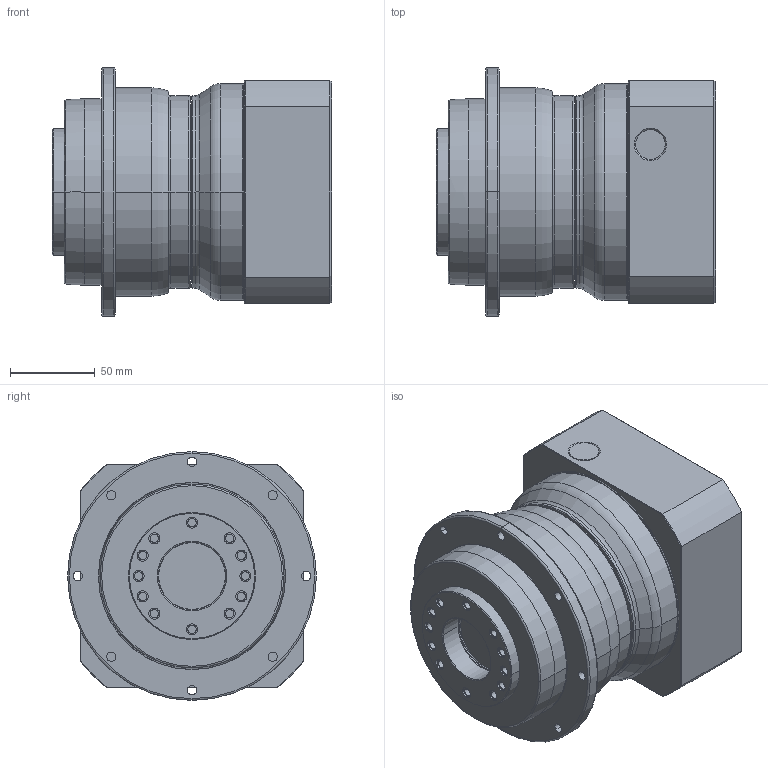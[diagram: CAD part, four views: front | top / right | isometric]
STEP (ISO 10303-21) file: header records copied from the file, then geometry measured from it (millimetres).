
FILE_DESCRIPTION((''),'2;1');
FILE_NAME('PD110_1ST_35-P0411800101_ASM','2016-06-02T',('d01943'),(''),'PRO/ENGINEER BY PARAMETRIC TECHNOLOGY CORPORATION, 2008410','PRO/ENGINEER BY PARAMETRIC TECHNOLOGY CORPORATION, 2008410','');
FILE_SCHEMA(('CONFIG_CONTROL_DESIGN'));
Length unit declared in the file: millimetre
Products named in the file (8): P1355400001; P0367400001; P0274400001; P1324400401; P0411800101; P0503800010; P0941404001; PD110_1ST_35-P0411800101_ASM
Assembly tree (7 placements, depth 2):
  PD110_1ST_35-P0411800101_ASM
    P1355400001
    P0367400001
    P0274400001
    P1324400401
    P0411800101
    P0503800010
    P0941404001
Bounding box: 164.93 x 147 x 147 mm (x, y, z)
Volume: 1798044.7 mm3; surface area: 267967.2 mm2
Topology: 7 solids, 7 shells, 411 faces, 959 edges, 582 vertices
Faces by surface type: cylinder 164, cone 90, plane 73, torus 70, bspline 14
Entity records: 16487 total; most frequent: CARTESIAN_POINT 6710, DIRECTION 2189, ORIENTED_EDGE 1886, AXIS2_PLACEMENT_3D 943, EDGE_CURVE 943, VERTEX_POINT 582, CIRCLE 531, EDGE_LOOP 503
